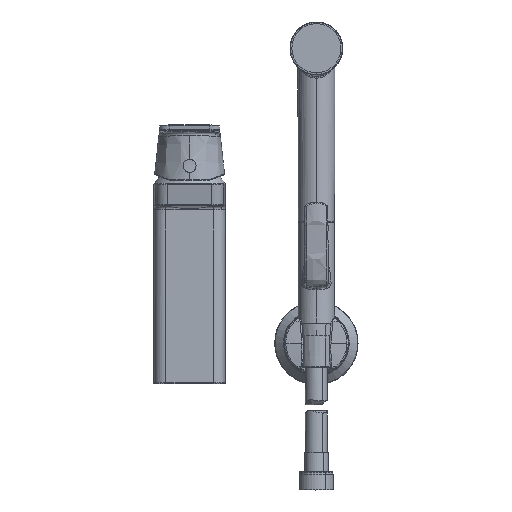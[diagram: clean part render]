
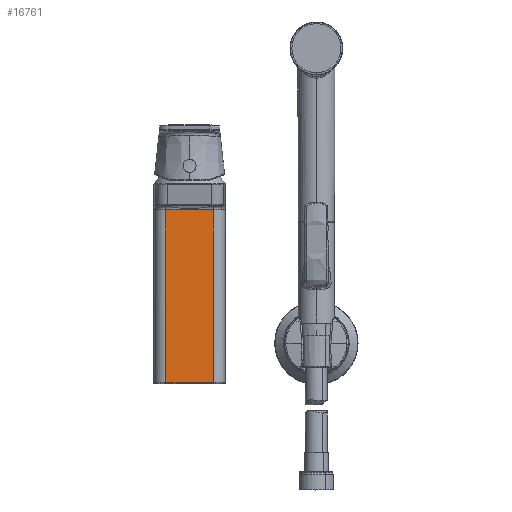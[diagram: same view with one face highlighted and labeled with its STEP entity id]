
A CAD part, top view. The second image highlights one B-rep face of the part: STEP entity #16761.
In plain terms, the highlighted planar face has unit normal (0, 0, 1).
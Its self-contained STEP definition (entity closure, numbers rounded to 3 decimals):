
#279 = VECTOR ( 'NONE', #14253, 1000. ) ;
#627 = LINE ( 'NONE', #18329, #279 ) ;
#764 = DIRECTION ( 'NONE',  ( 0., 1., 0. ) ) ;
#806 = FACE_OUTER_BOUND ( 'NONE', #9148, .T. ) ;
#835 = CARTESIAN_POINT ( 'NONE',  ( -23.997, 118., 24.25 ) ) ;
#1080 = LINE ( 'NONE', #2925, #13090 ) ;
#1221 = AXIS2_PLACEMENT_3D ( 'NONE', #10063, #23241, #5429 ) ;
#2693 = ORIENTED_EDGE ( 'NONE', *, *, #3546, .T. ) ;
#2925 = CARTESIAN_POINT ( 'NONE',  ( 16.081, 149.6, 24.25 ) ) ;
#3272 = VERTEX_POINT ( 'NONE', #10698 ) ;
#3546 = EDGE_CURVE ( 'NONE', #28206, #19813, #26683, .T. ) ;
#3992 = CARTESIAN_POINT ( 'NONE',  ( 16.081, 118., 24.25 ) ) ;
#4979 = CARTESIAN_POINT ( 'NONE',  ( -16.081, 149.6, 24.25 ) ) ;
#5429 = DIRECTION ( 'NONE',  ( 1., 0., 0. ) ) ;
#6872 = EDGE_CURVE ( 'NONE', #3272, #14842, #1080, .T. ) ;
#7291 = CARTESIAN_POINT ( 'NONE',  ( -16.081, 0.5, 24.25 ) ) ;
#9148 = EDGE_LOOP ( 'NONE', ( #2693, #18073, #26719, #19060 ) ) ;
#10063 = CARTESIAN_POINT ( 'NONE',  ( -23.997, 149.6, 24.25 ) ) ;
#10362 = EDGE_CURVE ( 'NONE', #14842, #28206, #10368, .T. ) ;
#10368 = LINE ( 'NONE', #835, #20850 ) ;
#10698 = CARTESIAN_POINT ( 'NONE',  ( 16.081, 0.5, 24.25 ) ) ;
#13090 = VECTOR ( 'NONE', #764, 1000. ) ;
#14117 = DIRECTION ( 'NONE',  ( 0., -1., 0. ) ) ;
#14253 = DIRECTION ( 'NONE',  ( 1., 0., 0. ) ) ;
#14304 = DIRECTION ( 'NONE',  ( -1., 0., 0. ) ) ;
#14842 = VERTEX_POINT ( 'NONE', #3992 ) ;
#16761 = ADVANCED_FACE ( 'NONE', ( #806 ), #18752, .F. ) ;
#17044 = CARTESIAN_POINT ( 'NONE',  ( -16.081, 118., 24.25 ) ) ;
#18073 = ORIENTED_EDGE ( 'NONE', *, *, #23836, .T. ) ;
#18329 = CARTESIAN_POINT ( 'NONE',  ( -23.997, 0.5, 24.25 ) ) ;
#18752 = PLANE ( 'NONE',  #1221 ) ;
#19060 = ORIENTED_EDGE ( 'NONE', *, *, #10362, .T. ) ;
#19813 = VERTEX_POINT ( 'NONE', #7291 ) ;
#20739 = VECTOR ( 'NONE', #14117, 1000. ) ;
#20850 = VECTOR ( 'NONE', #14304, 1000. ) ;
#23241 = DIRECTION ( 'NONE',  ( 0., 0., -1. ) ) ;
#23836 = EDGE_CURVE ( 'NONE', #19813, #3272, #627, .T. ) ;
#26683 = LINE ( 'NONE', #4979, #20739 ) ;
#26719 = ORIENTED_EDGE ( 'NONE', *, *, #6872, .T. ) ;
#28206 = VERTEX_POINT ( 'NONE', #17044 ) ;
